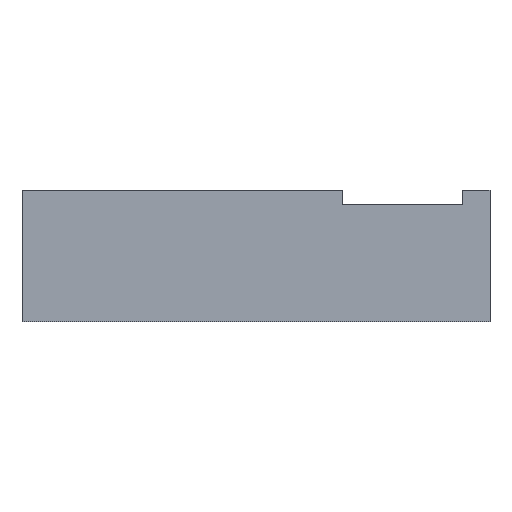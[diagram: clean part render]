
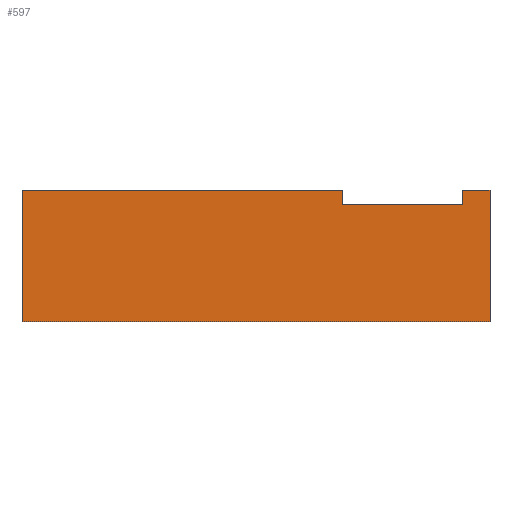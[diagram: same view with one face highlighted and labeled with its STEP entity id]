
A CAD part, front view. The second image highlights one B-rep face of the part: STEP entity #597.
In plain terms, the highlighted planar face has unit normal (0, -1, 0).
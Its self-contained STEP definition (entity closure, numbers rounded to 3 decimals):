
#93=PLANE('',#664);
#121=FACE_OUTER_BOUND('',#153,.T.);
#153=EDGE_LOOP('',(#530,#531,#532,#533,#534,#535,#536,#537));
#193=LINE('',#958,#249);
#196=LINE('',#964,#252);
#200=LINE('',#976,#256);
#204=LINE('',#982,#260);
#208=LINE('',#991,#264);
#209=LINE('',#993,#265);
#210=LINE('',#995,#266);
#211=LINE('',#996,#267);
#249=VECTOR('',#782,10.);
#252=VECTOR('',#787,10.);
#256=VECTOR('',#799,10.);
#260=VECTOR('',#805,10.);
#264=VECTOR('',#811,10.);
#265=VECTOR('',#814,10.);
#266=VECTOR('',#815,10.);
#267=VECTOR('',#816,10.);
#334=VERTEX_POINT('',#952);
#336=VERTEX_POINT('',#956);
#338=VERTEX_POINT('',#962);
#341=VERTEX_POINT('',#973);
#342=VERTEX_POINT('',#975);
#344=VERTEX_POINT('',#984);
#347=VERTEX_POINT('',#989);
#348=VERTEX_POINT('',#994);
#398=EDGE_CURVE('',#336,#334,#193,.T.);
#401=EDGE_CURVE('',#336,#338,#196,.T.);
#406=EDGE_CURVE('',#341,#342,#200,.T.);
#410=EDGE_CURVE('',#342,#338,#204,.T.);
#414=EDGE_CURVE('',#344,#347,#208,.T.);
#415=EDGE_CURVE('',#341,#344,#209,.T.);
#416=EDGE_CURVE('',#348,#347,#210,.T.);
#417=EDGE_CURVE('',#334,#348,#211,.T.);
#530=ORIENTED_EDGE('',*,*,#415,.T.);
#531=ORIENTED_EDGE('',*,*,#414,.T.);
#532=ORIENTED_EDGE('',*,*,#416,.F.);
#533=ORIENTED_EDGE('',*,*,#417,.F.);
#534=ORIENTED_EDGE('',*,*,#398,.F.);
#535=ORIENTED_EDGE('',*,*,#401,.T.);
#536=ORIENTED_EDGE('',*,*,#410,.F.);
#537=ORIENTED_EDGE('',*,*,#406,.F.);
#597=ADVANCED_FACE('',(#121),#93,.T.);
#664=AXIS2_PLACEMENT_3D('',#992,#812,#813);
#782=DIRECTION('',(1.,0.,0.));
#787=DIRECTION('',(0.,0.,1.));
#799=DIRECTION('',(0.,0.,1.));
#805=DIRECTION('',(1.,0.,0.));
#811=DIRECTION('',(0.,0.,1.));
#812=DIRECTION('center_axis',(0.,-1.,0.));
#813=DIRECTION('ref_axis',(1.,0.,0.));
#814=DIRECTION('',(1.,0.,0.));
#815=DIRECTION('',(1.,0.,0.));
#816=DIRECTION('',(0.,0.,1.));
#952=CARTESIAN_POINT('',(14.1,-28.,8.));
#956=CARTESIAN_POINT('',(5.9,-28.,8.));
#958=CARTESIAN_POINT('',(-16.,-28.,8.));
#962=CARTESIAN_POINT('',(5.9,-28.,9.));
#964=CARTESIAN_POINT('',(5.9,-28.,0.));
#973=CARTESIAN_POINT('',(-16.,-28.,0.));
#975=CARTESIAN_POINT('',(-16.,-28.,9.));
#976=CARTESIAN_POINT('',(-16.,-28.,0.));
#982=CARTESIAN_POINT('',(-16.,-28.,9.));
#984=CARTESIAN_POINT('',(16.,-28.,0.));
#989=CARTESIAN_POINT('',(16.,-28.,9.));
#991=CARTESIAN_POINT('',(16.,-28.,0.));
#992=CARTESIAN_POINT('Origin',(14.1,-28.,0.));
#993=CARTESIAN_POINT('',(-16.,-28.,0.));
#994=CARTESIAN_POINT('',(14.1,-28.,9.));
#995=CARTESIAN_POINT('',(-16.,-28.,9.));
#996=CARTESIAN_POINT('',(14.1,-28.,0.));
